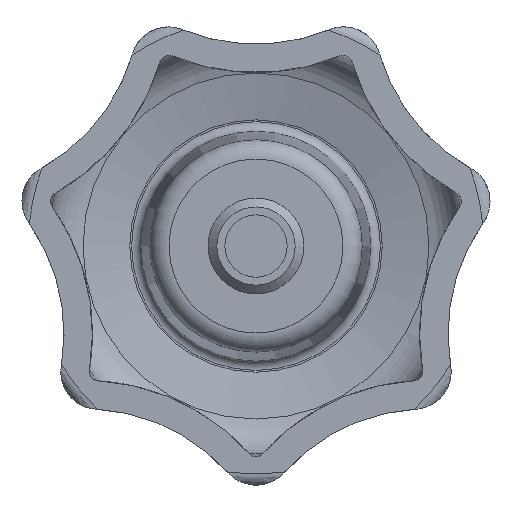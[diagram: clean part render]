
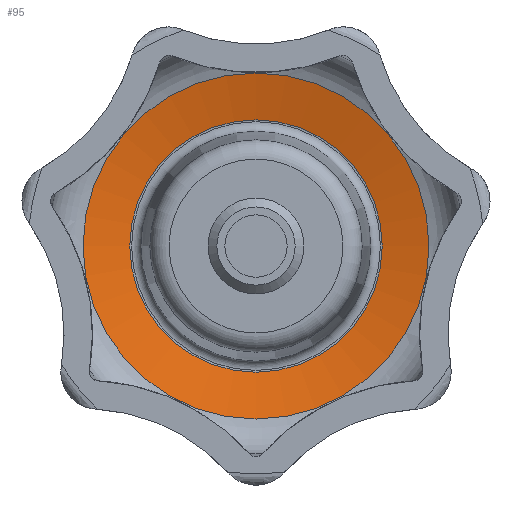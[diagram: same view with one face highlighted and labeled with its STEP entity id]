
A CAD part, front view. The second image highlights one B-rep face of the part: STEP entity #95.
In plain terms, the highlighted conical face has half-angle 76.629 degrees and reference radius 18.04 mm.
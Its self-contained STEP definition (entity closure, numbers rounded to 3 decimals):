
#95 = ADVANCED_FACE( '', ( #190, #191 ), #192, .F. );
#190 = FACE_BOUND( '', #332, .T. );
#191 = FACE_OUTER_BOUND( '', #333, .T. );
#192 = CONICAL_SURFACE( '', #334, 18.04, 1.337 );
#332 = EDGE_LOOP( '', ( #589 ) );
#333 = EDGE_LOOP( '', ( #590 ) );
#334 = AXIS2_PLACEMENT_3D( '', #591, #592, #593 );
#589 = ORIENTED_EDGE( '', *, *, #1051, .F. );
#590 = ORIENTED_EDGE( '', *, *, #963, .T. );
#591 = CARTESIAN_POINT( '', ( 0., 27.53, 0. ) );
#592 = DIRECTION( '', ( 0., -1., 0. ) );
#593 = DIRECTION( '', ( 1., 0., 0. ) );
#963 = EDGE_CURVE( '', #1137, #1137, #1138, .T. );
#1051 = EDGE_CURVE( '', #1306, #1306, #1307, .T. );
#1137 = VERTEX_POINT( '', #1434 );
#1138 = CIRCLE( '', #1435, 18.04 );
#1306 = VERTEX_POINT( '', #2293 );
#1307 = CIRCLE( '', #2294, 13.16 );
#1434 = CARTESIAN_POINT( '', ( 18.04, 27.53, 0. ) );
#1435 = AXIS2_PLACEMENT_3D( '', #2942, #2943, #2944 );
#2293 = CARTESIAN_POINT( '', ( 13.16, 28.69, 0. ) );
#2294 = AXIS2_PLACEMENT_3D( '', #3029, #3030, #3031 );
#2942 = CARTESIAN_POINT( '', ( 0., 27.53, 0. ) );
#2943 = DIRECTION( '', ( 0., -1., 0. ) );
#2944 = DIRECTION( '', ( 1., 0., 0. ) );
#3029 = CARTESIAN_POINT( '', ( 0., 28.69, 0. ) );
#3030 = DIRECTION( '', ( 0., -1., 0. ) );
#3031 = DIRECTION( '', ( 1., 0., 0. ) );
